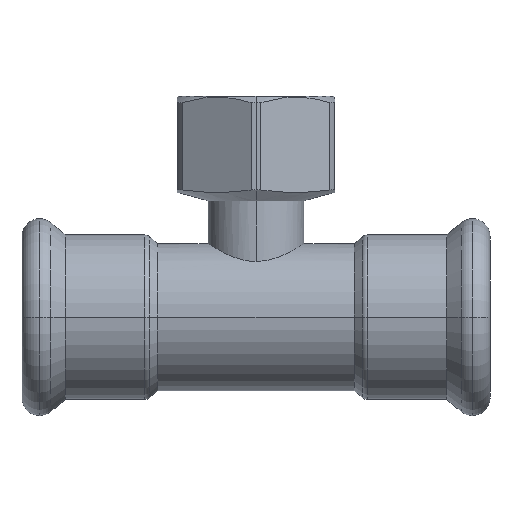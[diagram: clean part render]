
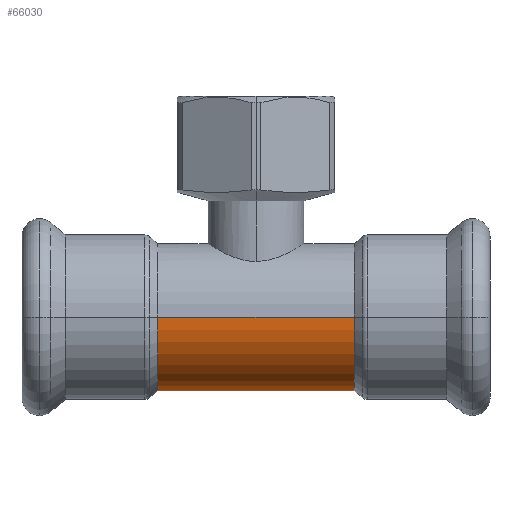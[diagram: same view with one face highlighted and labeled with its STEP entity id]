
A CAD part, left-side view. The second image highlights one B-rep face of the part: STEP entity #66030.
In plain terms, the highlighted cylindrical face has radius 14 mm (diameter 28 mm), a partial arc.
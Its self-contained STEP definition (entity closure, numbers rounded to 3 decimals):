
#7960=CARTESIAN_POINT('',(-96.193,64.409,
18.7));
#7970=DIRECTION('',(0.,0.,1.));
#7980=DIRECTION('',(-1.,0.,0.));
#7990=AXIS2_PLACEMENT_3D('',#7960,#7970,#7980);
#8000=CYLINDRICAL_SURFACE('',#7990,14.);
#30740=CARTESIAN_POINT('',(-110.193,64.409,
18.7));
#30750=DIRECTION('',(0.,0.,1.));
#30760=VECTOR('',#30750,1.);
#30770=LINE('',#30740,#30760);
#30780=CARTESIAN_POINT('',(-110.193,64.409,
-18.7));
#30790=VERTEX_POINT('',#30780);
#30800=CARTESIAN_POINT('',(-110.193,64.409,
18.7));
#30810=VERTEX_POINT('',#30800);
#30820=EDGE_CURVE('',#30790,#30810,#30770,.T.);
#30840=CARTESIAN_POINT('',(-96.193,64.409,
18.7));
#30850=DIRECTION('',(0.,0.,1.));
#30860=DIRECTION('',(1.,0.,0.));
#30870=AXIS2_PLACEMENT_3D('',#30840,#30850,#30860);
#30880=CIRCLE('',#30870,14.);
#30890=CARTESIAN_POINT('',(-82.193,64.409,
18.7));
#30900=VERTEX_POINT('',#30890);
#30930=CARTESIAN_POINT('',(-82.193,64.409,
18.7));
#30940=DIRECTION('',(0.,0.,1.));
#30950=VECTOR('',#30940,1.);
#30960=LINE('',#30930,#30950);
#30970=CARTESIAN_POINT('',(-82.193,64.409,
-18.7));
#30980=VERTEX_POINT('',#30970);
#30990=EDGE_CURVE('',#30980,#30900,#30960,.T.);
#31010=CARTESIAN_POINT('',(-96.193,64.409,
-18.7));
#31020=DIRECTION('',(0.,0.,1.));
#31030=DIRECTION('',(-1.,0.,0.));
#31040=AXIS2_PLACEMENT_3D('',#31010,#31020,#31030);
#31050=CIRCLE('',#31040,14.);
#43440=EDGE_CURVE('',#30900,#30810,#30880,.T.);
#65960=ORIENTED_EDGE('',*,*,#30820,.T.);
#65970=EDGE_CURVE('',#30980,#30790,#31050,.T.);
#65980=ORIENTED_EDGE('',*,*,#65970,.T.);
#65990=ORIENTED_EDGE('',*,*,#30990,.F.);
#66000=ORIENTED_EDGE('',*,*,#43440,.F.);
#66010=EDGE_LOOP('',(#66000,#65990,#65980,#65960));
#66020=FACE_OUTER_BOUND('',#66010,.T.);
#66030=ADVANCED_FACE('',(#66020),#8000,.T.);
